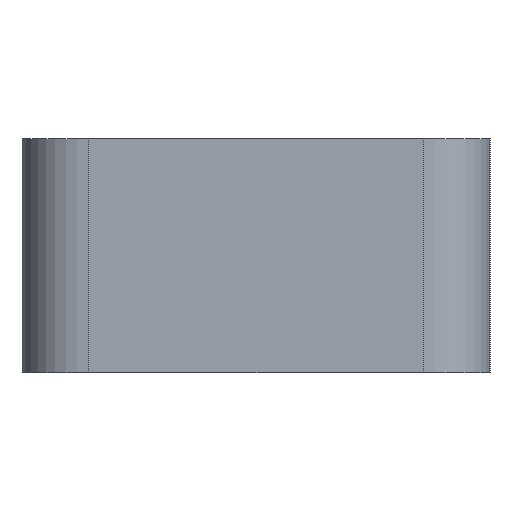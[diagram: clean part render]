
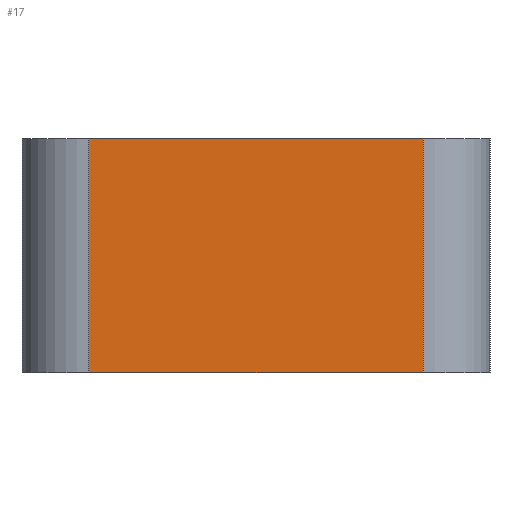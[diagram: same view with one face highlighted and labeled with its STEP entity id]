
A CAD part, left-side view. The second image highlights one B-rep face of the part: STEP entity #17.
In plain terms, the highlighted planar face has unit normal (-1, 0, 0).
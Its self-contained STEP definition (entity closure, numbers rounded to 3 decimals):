
#17 = ADVANCED_FACE('',(#18),#32,.F.);
#18 = FACE_BOUND('',#19,.F.);
#19 = EDGE_LOOP('',(#20,#55,#83,#111));
#20 = ORIENTED_EDGE('',*,*,#21,.F.);
#21 = EDGE_CURVE('',#22,#24,#26,.T.);
#22 = VERTEX_POINT('',#23);
#23 = CARTESIAN_POINT('',(-22.,-5.,7.));
#24 = VERTEX_POINT('',#25);
#25 = CARTESIAN_POINT('',(-22.,5.,7.));
#26 = SURFACE_CURVE('',#27,(#31,#43),.PCURVE_S1.);
#27 = LINE('',#28,#29);
#28 = CARTESIAN_POINT('',(-22.,-7.,7.));
#29 = VECTOR('',#30,1.);
#30 = DIRECTION('',(0.,1.,0.));
#31 = PCURVE('',#32,#37);
#32 = PLANE('',#33);
#33 = AXIS2_PLACEMENT_3D('',#34,#35,#36);
#34 = CARTESIAN_POINT('',(-22.,-7.,0.));
#35 = DIRECTION('',(1.,0.,0.));
#36 = DIRECTION('',(0.,0.,1.));
#37 = DEFINITIONAL_REPRESENTATION('',(#38),#42);
#38 = LINE('',#39,#40);
#39 = CARTESIAN_POINT('',(7.,0.));
#40 = VECTOR('',#41,1.);
#41 = DIRECTION('',(0.,-1.));
#42 = ( GEOMETRIC_REPRESENTATION_CONTEXT(2) 
PARAMETRIC_REPRESENTATION_CONTEXT() REPRESENTATION_CONTEXT('2D SPACE',''
  ) );
#43 = PCURVE('',#44,#49);
#44 = PLANE('',#45);
#45 = AXIS2_PLACEMENT_3D('',#46,#47,#48);
#46 = CARTESIAN_POINT('',(-22.,-7.,7.));
#47 = DIRECTION('',(0.,0.,1.));
#48 = DIRECTION('',(1.,0.,0.));
#49 = DEFINITIONAL_REPRESENTATION('',(#50),#54);
#50 = LINE('',#51,#52);
#51 = CARTESIAN_POINT('',(0.,0.));
#52 = VECTOR('',#53,1.);
#53 = DIRECTION('',(0.,1.));
#54 = ( GEOMETRIC_REPRESENTATION_CONTEXT(2) 
PARAMETRIC_REPRESENTATION_CONTEXT() REPRESENTATION_CONTEXT('2D SPACE',''
  ) );
#55 = ORIENTED_EDGE('',*,*,#56,.F.);
#56 = EDGE_CURVE('',#57,#22,#59,.T.);
#57 = VERTEX_POINT('',#58);
#58 = CARTESIAN_POINT('',(-22.,-5.,0.));
#59 = SURFACE_CURVE('',#60,(#64,#71),.PCURVE_S1.);
#60 = LINE('',#61,#62);
#61 = CARTESIAN_POINT('',(-22.,-5.,0.));
#62 = VECTOR('',#63,1.);
#63 = DIRECTION('',(0.,0.,1.));
#64 = PCURVE('',#32,#65);
#65 = DEFINITIONAL_REPRESENTATION('',(#66),#70);
#66 = LINE('',#67,#68);
#67 = CARTESIAN_POINT('',(0.,-2.));
#68 = VECTOR('',#69,1.);
#69 = DIRECTION('',(1.,0.));
#70 = ( GEOMETRIC_REPRESENTATION_CONTEXT(2) 
PARAMETRIC_REPRESENTATION_CONTEXT() REPRESENTATION_CONTEXT('2D SPACE',''
  ) );
#71 = PCURVE('',#72,#77);
#72 = CYLINDRICAL_SURFACE('',#73,2.);
#73 = AXIS2_PLACEMENT_3D('',#74,#75,#76);
#74 = CARTESIAN_POINT('',(-20.,-5.,0.));
#75 = DIRECTION('',(0.,0.,1.));
#76 = DIRECTION('',(-1.,-0.,0.));
#77 = DEFINITIONAL_REPRESENTATION('',(#78),#82);
#78 = LINE('',#79,#80);
#79 = CARTESIAN_POINT('',(0.,0.));
#80 = VECTOR('',#81,1.);
#81 = DIRECTION('',(0.,1.));
#82 = ( GEOMETRIC_REPRESENTATION_CONTEXT(2) 
PARAMETRIC_REPRESENTATION_CONTEXT() REPRESENTATION_CONTEXT('2D SPACE',''
  ) );
#83 = ORIENTED_EDGE('',*,*,#84,.T.);
#84 = EDGE_CURVE('',#57,#85,#87,.T.);
#85 = VERTEX_POINT('',#86);
#86 = CARTESIAN_POINT('',(-22.,5.,0.));
#87 = SURFACE_CURVE('',#88,(#92,#99),.PCURVE_S1.);
#88 = LINE('',#89,#90);
#89 = CARTESIAN_POINT('',(-22.,-7.,0.));
#90 = VECTOR('',#91,1.);
#91 = DIRECTION('',(0.,1.,0.));
#92 = PCURVE('',#32,#93);
#93 = DEFINITIONAL_REPRESENTATION('',(#94),#98);
#94 = LINE('',#95,#96);
#95 = CARTESIAN_POINT('',(0.,0.));
#96 = VECTOR('',#97,1.);
#97 = DIRECTION('',(0.,-1.));
#98 = ( GEOMETRIC_REPRESENTATION_CONTEXT(2) 
PARAMETRIC_REPRESENTATION_CONTEXT() REPRESENTATION_CONTEXT('2D SPACE',''
  ) );
#99 = PCURVE('',#100,#105);
#100 = PLANE('',#101);
#101 = AXIS2_PLACEMENT_3D('',#102,#103,#104);
#102 = CARTESIAN_POINT('',(-22.,-7.,0.));
#103 = DIRECTION('',(0.,0.,1.));
#104 = DIRECTION('',(1.,0.,0.));
#105 = DEFINITIONAL_REPRESENTATION('',(#106),#110);
#106 = LINE('',#107,#108);
#107 = CARTESIAN_POINT('',(0.,0.));
#108 = VECTOR('',#109,1.);
#109 = DIRECTION('',(0.,1.));
#110 = ( GEOMETRIC_REPRESENTATION_CONTEXT(2) 
PARAMETRIC_REPRESENTATION_CONTEXT() REPRESENTATION_CONTEXT('2D SPACE',''
  ) );
#111 = ORIENTED_EDGE('',*,*,#112,.T.);
#112 = EDGE_CURVE('',#85,#24,#113,.T.);
#113 = SURFACE_CURVE('',#114,(#118,#125),.PCURVE_S1.);
#114 = LINE('',#115,#116);
#115 = CARTESIAN_POINT('',(-22.,5.,0.));
#116 = VECTOR('',#117,1.);
#117 = DIRECTION('',(0.,0.,1.));
#118 = PCURVE('',#32,#119);
#119 = DEFINITIONAL_REPRESENTATION('',(#120),#124);
#120 = LINE('',#121,#122);
#121 = CARTESIAN_POINT('',(0.,-12.));
#122 = VECTOR('',#123,1.);
#123 = DIRECTION('',(1.,0.));
#124 = ( GEOMETRIC_REPRESENTATION_CONTEXT(2) 
PARAMETRIC_REPRESENTATION_CONTEXT() REPRESENTATION_CONTEXT('2D SPACE',''
  ) );
#125 = PCURVE('',#126,#131);
#126 = CYLINDRICAL_SURFACE('',#127,2.);
#127 = AXIS2_PLACEMENT_3D('',#128,#129,#130);
#128 = CARTESIAN_POINT('',(-20.,5.,0.));
#129 = DIRECTION('',(0.,0.,1.));
#130 = DIRECTION('',(-1.,-0.,0.));
#131 = DEFINITIONAL_REPRESENTATION('',(#132),#136);
#132 = LINE('',#133,#134);
#133 = CARTESIAN_POINT('',(-0.,0.));
#134 = VECTOR('',#135,1.);
#135 = DIRECTION('',(-0.,1.));
#136 = ( GEOMETRIC_REPRESENTATION_CONTEXT(2) 
PARAMETRIC_REPRESENTATION_CONTEXT() REPRESENTATION_CONTEXT('2D SPACE',''
  ) );
